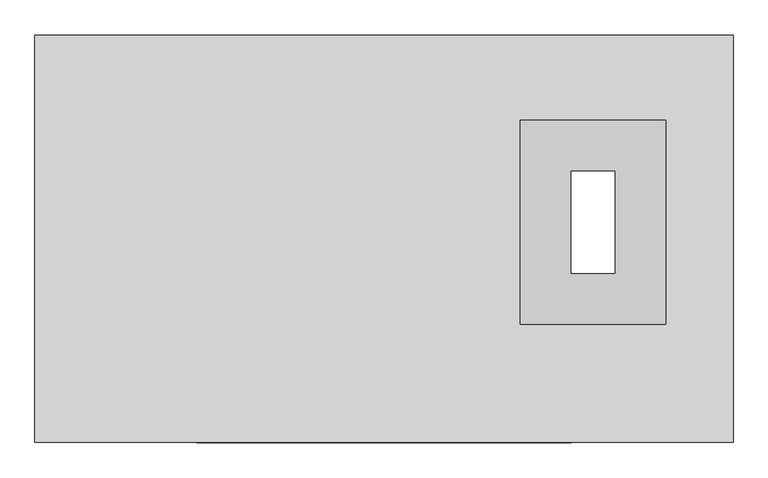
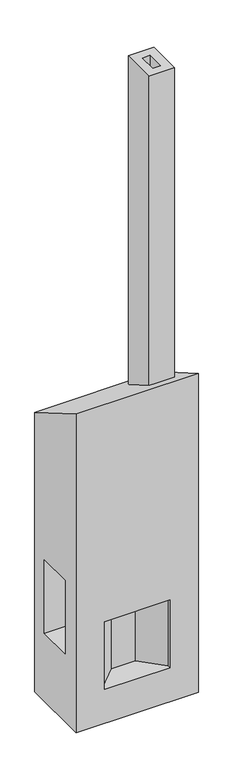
"""IFC4 building model written with IfcOpenShell, lengths in millimetres: furniture geometry, 壁爐 : 壁爐."""

from ifc_helpers import new_model, si_unit, frame, origin, place, context, project, spatial, polyline, outline, extrude, faceted_brep, source, transform, mapped, element, save


def furniture_3b43488b(model_context):
    return source(origin(), model_context, "Body", "SolidModel", [
        extrude(outline(polyline([(6534.8826321, 3616.3306475), (6962.5245882, 3616.3306475), (6962.5245882, 3016.3306475), (6534.8826321, 3016.3306475), (6534.8826321, 3616.3306475)]), holes=[polyline([(6684.8826321, 3166.3306475), (6812.5245882, 3166.3306475), (6812.5245882, 3466.3306475), (6684.8826321, 3466.3306475), (6684.8826321, 3166.3306475)])]), frame((0.0, 0.0, 5096.1516975), z_axis=(0.0, 0.0, 1.0), x_axis=(1.0, 0.0, 0.0)), (0.0, 0.0, 1.0), 5819.4482467),
        faceted_brep([(7159.8826321, 3866.3306475, 0.0), (7159.8826321, 2670.5429408, 0.0), (5109.8826321, 2670.5429408, 0.0), (5109.8826321, 3866.3306475, 0.0), (6684.8826321, 3166.3306475, 0.0), (6812.5245882, 3166.3306475, 0.0), (6812.5245882, 3466.3306475, 0.0), (6684.8826321, 3466.3306475, 0.0), (5109.8826321, 3866.3306475, 4949.6116457), (7159.8826321, 3866.3306475, 4949.6116457), (5109.8826321, 2670.5429408, 5640.0), (5109.8826321, 3590.4, 2500.0), (5109.8826321, 2990.4, 2500.0), (5109.8826321, 2990.4, 1200.0), (5109.8826321, 3590.4, 1200.0), (7159.8826321, 2670.5429408, 5640.0), (5584.8826321, 2670.5429408, 1800.0), (6684.8826321, 2670.5429408, 1800.0), (6684.8826321, 2670.5429408, 600.0), (5584.8826321, 2670.5429408, 600.0), (6812.5245882, 3166.3306475, 5353.7568341), (6684.8826321, 3166.3306475, 5353.7568341), (6684.8826321, 3466.3306475, 5180.5517533), (6812.5245882, 3466.3306475, 5180.5517533), (5584.8826321, 2720.5429408, 1800.0), (5934.8826321, 3070.5429408, 1800.0), (6334.8826321, 3070.5429408, 1800.0), (6684.8826321, 2720.5429408, 1800.0), (5584.8826321, 2720.5429408, 600.0), (6684.8826321, 2720.5429408, 600.0), (6334.8826321, 3070.5429408, 600.0), (5934.8826321, 3070.5429408, 600.0), (5559.8826321, 2990.4, 2500.0), (5559.8826321, 3590.4, 2500.0), (5559.8826321, 2990.4, 1200.0), (5559.8826321, 3590.4, 1200.0)], [[[0, 1, 2, 3], [4, 5, 6, 7]], [[0, 3, 8, 9]], [[3, 2, 10, 8], [11, 12, 13, 14]], [[2, 1, 15, 10], [16, 17, 18, 19]], [[1, 0, 9, 15]], [[9, 8, 10, 15], [20, 21, 22, 23]], [[24, 25, 26, 27, 17, 16]], [[28, 19, 18, 29, 30, 31]], [[24, 16, 19, 28]], [[17, 27, 29, 18]], [[27, 26, 30, 29]], [[26, 25, 31, 30]], [[25, 24, 28, 31]], [[20, 5, 4, 21]], [[21, 4, 7, 22]], [[22, 7, 6, 23]], [[5, 20, 23, 6]], [[32, 12, 11, 33]], [[34, 35, 14, 13]], [[32, 33, 35, 34]], [[33, 11, 14, 35]], [[12, 32, 34, 13]]]),
    ])


if __name__ == "__main__":
    model = new_model("IFC4")
    model_context = context("Model", 3, world=origin())
    ifc_project = project(units=[si_unit("LENGTHUNIT", "METRE", prefix="MILLI")], contexts=[model_context])
    site = spatial("IfcSite", under=ifc_project)
    building = spatial("IfcBuilding", under=site)
    placement = place(None, origin())
    furniture_shape = furniture_3b43488b(model_context)
    element("IfcFurniture", 1, ObjectType="壁爐 : 壁爐", at=placement, inside=building, context=model_context, shape_type="MappedRepresentation", body=[
        mapped(furniture_shape, transform((0.0, 0.0, 0.0), x_axis=(1.0, 0.0, 0.0), y_axis=(0.0, 1.0, 0.0), z_axis=(0.0, 0.0, 1.0))),
    ])
    save(model, "model.ifc")
